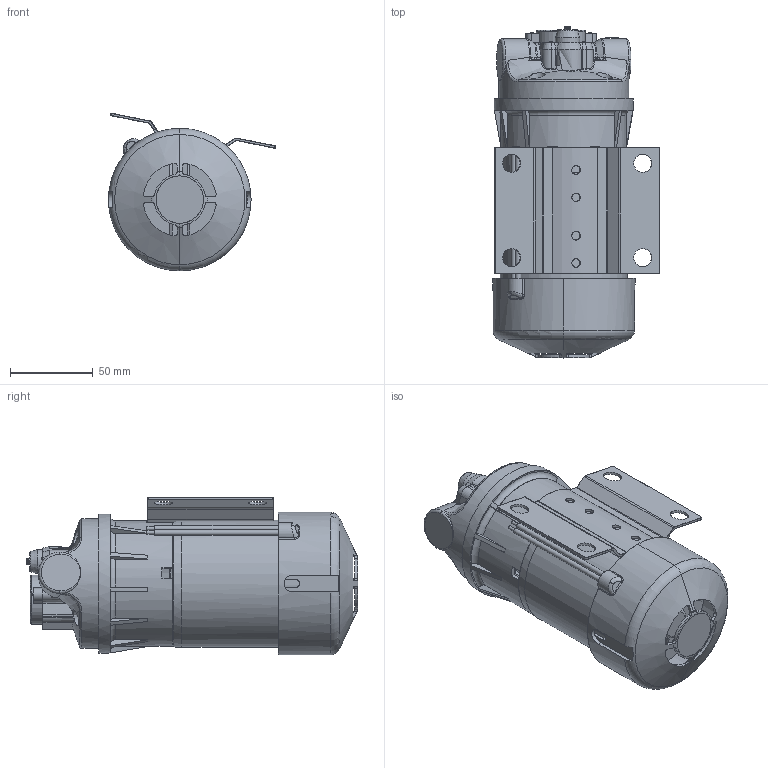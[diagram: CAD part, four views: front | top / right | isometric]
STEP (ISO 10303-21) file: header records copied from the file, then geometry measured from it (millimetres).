
FILE_DESCRIPTION( ( 'Unknown' ), '1' );
FILE_NAME( 'C:/Users/caseyl/Desktop/40-524 DIFF PUMP MODEL/40-524.stp', 'Unknown', ( 'Unknown' ), ( 'Unknown' ), 'PSStep 17.0.49', 'Unknown', ' ' );
FILE_SCHEMA( ( 'AUTOMOTIVE_DESIGN { 1 0 10303 214 1 1 1 1 }' ) );
Length unit declared in the file: inch
Products named in the file (159):  TRM_SRF
Bounding box: 101.04 x 200.86 x 95.43 mm (x, y, z)
Volume: 12888.7 mm3; surface area: 147228.2 mm2
Topology: 3 solids, 484 shells, 593 faces, 3155 edges, 3006 vertices
Faces by surface type: plane 226, cylinder 204, torus 74, bspline 50, cone 26, revolution 9, sphere 4
Full cylindrical faces by diameter (mm): 1.925 x2, 3.302 x2, 5.207 x2, 5.334 x2, 9.754 x4, 11.125 x4, 14.707 x1, 29.718 x1, 76.2 x1, 76.708 x1, 77.038 x1, 78.613 x1, 84.125 x1
Entity records: 52177 total; most frequent: CARTESIAN_POINT 20864, DIRECTION 4209, ORIENTED_EDGE 3336, EDGE_CURVE 3092, VERTEX_POINT 2996, AXIS2_PLACEMENT_3D 1526, PRESENTATION_STYLE_ASSIGNMENT 1345, COLOUR_RGB 1345
